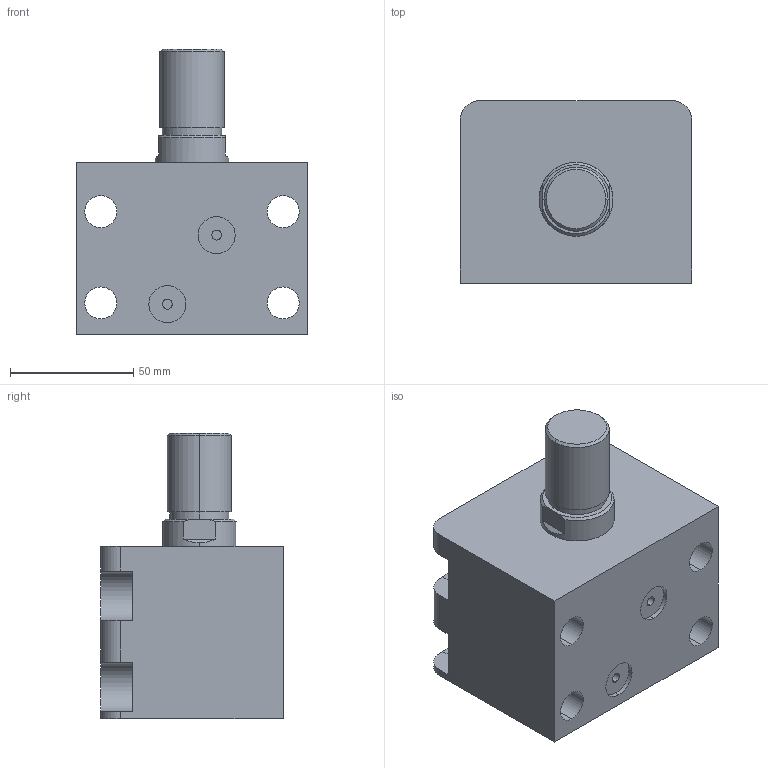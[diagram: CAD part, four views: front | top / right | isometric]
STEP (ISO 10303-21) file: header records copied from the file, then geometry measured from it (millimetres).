
FILE_DESCRIPTION (( 'STEP AP203' ), '1' );
FILE_NAME ('HTB-LAM50-10W.STEP', '2023-03-20T00:42:34', ( '微软用户' ), ( '微软中国' ), 'SwSTEP 2.0', 'SolidWorks 2012', '' );
FILE_SCHEMA (( 'CONFIG_CONTROL_DESIGN' ));
Length unit declared in the file: millimetre
Products named in the file (3): HTB-LAM50-10W; HTB-LAM50-10W活塞杆; HTB-LAM50-10掛极
Assembly tree (2 placements, depth 2):
  HTB-LAM50-10W
    HTB-LAM50-10掛极
    HTB-LAM50-10W活塞杆
Bounding box: 94 x 74 x 116 mm (x, y, z)
Volume: 447288.5 mm3; surface area: 72792.7 mm2
Topology: 2 solids, 2 shells, 79 faces, 192 edges, 126 vertices
Faces by surface type: cylinder 38, plane 33, cone 4, torus 4
Entity records: 2675 total; most frequent: DIRECTION 440, CARTESIAN_POINT 430, ORIENTED_EDGE 384, EDGE_CURVE 192, AXIS2_PLACEMENT_3D 172, VERTEX_POINT 126, EDGE_LOOP 96, VECTOR 96
